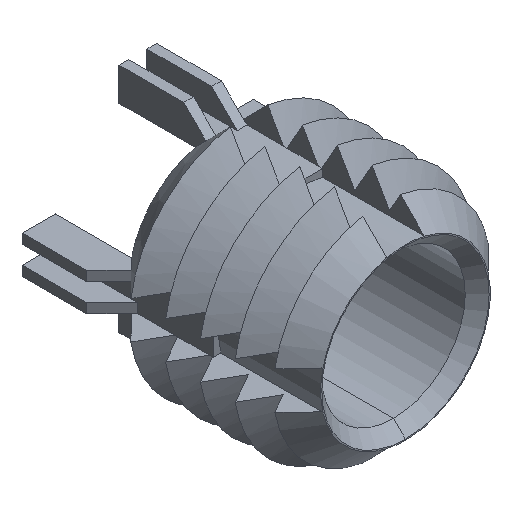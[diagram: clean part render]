
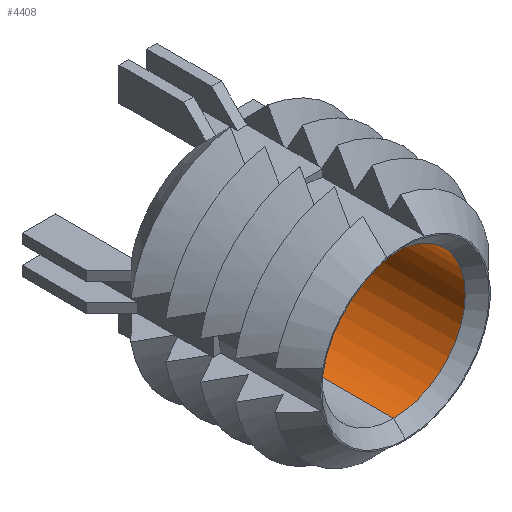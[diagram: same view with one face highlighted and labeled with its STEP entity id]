
A CAD part, isometric view. The second image highlights one B-rep face of the part: STEP entity #4408.
In plain terms, the highlighted cylindrical face has radius 4.763 mm (diameter 9.525 mm), a partial arc.
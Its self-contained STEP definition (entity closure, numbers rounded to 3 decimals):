
#62 = CIRCLE ( 'NONE', #3348, 4.762 ) ;
#74 = EDGE_CURVE ( 'NONE', #545, #312, #2422, .T. ) ;
#217 = VECTOR ( 'NONE', #3259, 1000. ) ;
#312 = VERTEX_POINT ( 'NONE', #1652 ) ;
#362 = CYLINDRICAL_SURFACE ( 'NONE', #2251, 4.762 ) ;
#501 = CARTESIAN_POINT ( 'NONE',  ( 0., -11.907, -4.762 ) ) ;
#545 = VERTEX_POINT ( 'NONE', #501 ) ;
#580 = CIRCLE ( 'NONE', #3870, 4.762 ) ;
#713 = ORIENTED_EDGE ( 'NONE', *, *, #1554, .T. ) ;
#741 = EDGE_CURVE ( 'NONE', #545, #1583, #580, .T. ) ;
#865 = ORIENTED_EDGE ( 'NONE', *, *, #74, .F. ) ;
#1060 = ORIENTED_EDGE ( 'NONE', *, *, #1550, .T. ) ;
#1351 = CARTESIAN_POINT ( 'NONE',  ( 0., -11.907, 4.762 ) ) ;
#1435 = EDGE_LOOP ( 'NONE', ( #865, #4256, #713, #1060 ) ) ;
#1550 = EDGE_CURVE ( 'NONE', #2351, #312, #62, .T. ) ;
#1554 = EDGE_CURVE ( 'NONE', #1583, #2351, #1863, .T. ) ;
#1583 = VERTEX_POINT ( 'NONE', #1351 ) ;
#1652 = CARTESIAN_POINT ( 'NONE',  ( 0., -0.794, -4.762 ) ) ;
#1843 = DIRECTION ( 'NONE',  ( 0., 1., 0. ) ) ;
#1863 = LINE ( 'NONE', #4413, #3489 ) ;
#1867 = CARTESIAN_POINT ( 'NONE',  ( 0., -11.907, 0. ) ) ;
#2026 = CARTESIAN_POINT ( 'NONE',  ( 0., -0.794, 4.762 ) ) ;
#2222 = CARTESIAN_POINT ( 'NONE',  ( 0., -26.17, -4.762 ) ) ;
#2251 = AXIS2_PLACEMENT_3D ( 'NONE', #2737, #2395, #3091 ) ;
#2351 = VERTEX_POINT ( 'NONE', #2026 ) ;
#2395 = DIRECTION ( 'NONE',  ( 0., 1., 0. ) ) ;
#2422 = LINE ( 'NONE', #2222, #217 ) ;
#2548 = DIRECTION ( 'NONE',  ( 0., 0., 1. ) ) ;
#2737 = CARTESIAN_POINT ( 'NONE',  ( 0., -26.17, 0. ) ) ;
#3091 = DIRECTION ( 'NONE',  ( 0., 0., 1. ) ) ;
#3259 = DIRECTION ( 'NONE',  ( 0., 1., 0. ) ) ;
#3285 = DIRECTION ( 'NONE',  ( 0., 1., 0. ) ) ;
#3348 = AXIS2_PLACEMENT_3D ( 'NONE', #4228, #1843, #2548 ) ;
#3359 = FACE_OUTER_BOUND ( 'NONE', #1435, .T. ) ;
#3489 = VECTOR ( 'NONE', #3285, 1000. ) ;
#3633 = DIRECTION ( 'NONE',  ( 0., 0., 1. ) ) ;
#3870 = AXIS2_PLACEMENT_3D ( 'NONE', #1867, #4276, #3633 ) ;
#4228 = CARTESIAN_POINT ( 'NONE',  ( 0., -0.794, 0. ) ) ;
#4256 = ORIENTED_EDGE ( 'NONE', *, *, #741, .T. ) ;
#4276 = DIRECTION ( 'NONE',  ( 0., -1., 0. ) ) ;
#4408 = ADVANCED_FACE ( 'NONE', ( #3359 ), #362, .F. ) ;
#4413 = CARTESIAN_POINT ( 'NONE',  ( 0., -26.17, 4.762 ) ) ;
